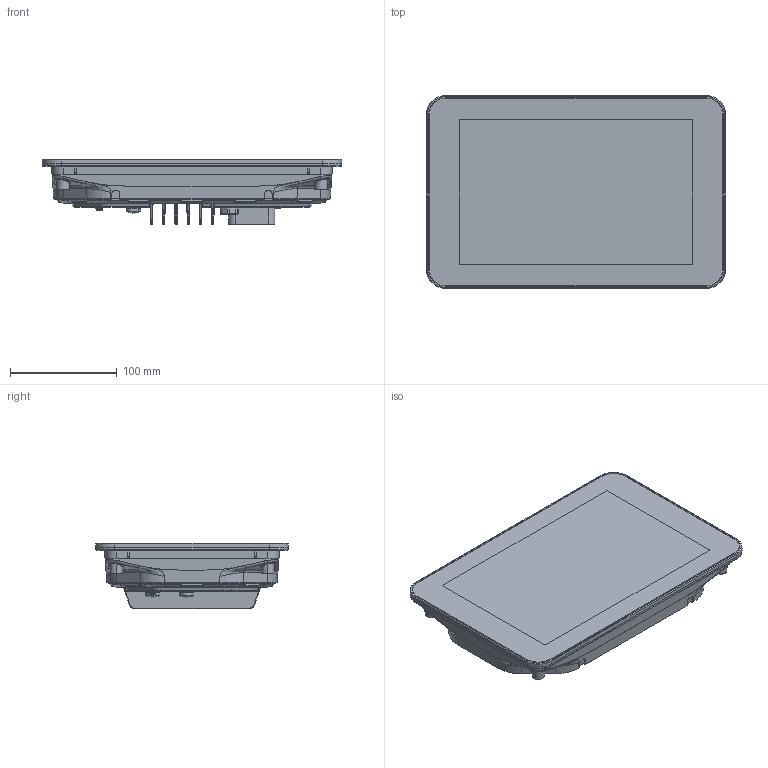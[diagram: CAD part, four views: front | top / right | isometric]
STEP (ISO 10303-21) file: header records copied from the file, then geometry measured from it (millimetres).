
FILE_DESCRIPTION (( 'STEP AP214' ), '1' );
FILE_NAME ('M810-02 None Keyed.STEP', '2023-10-11T10:22:58', ( '' ), ( '' ), 'SwSTEP 2.0', 'SolidWorks 2022', '' );
FILE_SCHEMA (( 'AUTOMOTIVE_DESIGN' ));
Length unit declared in the file: millimetre
Products named in the file (1): M810-02 None Keyed
Bounding box: 280.89 x 180.89 x 61.55 mm (x, y, z)
Volume: 1808226.5 mm3; surface area: 176312.8 mm2
Topology: 7 solids, 19 shells, 2662 faces, 6879 edges, 4343 vertices
Faces by surface type: plane 1124, cylinder 824, bspline 523, cone 123, torus 64, sphere 4
Entity records: 156868 total; most frequent: CARTESIAN_POINT 96662, ORIENTED_EDGE 13742, DIRECTION 11017, EDGE_CURVE 6871, VERTEX_POINT 4343, AXIS2_PLACEMENT_3D 3681, VECTOR 3655, LINE 3655
